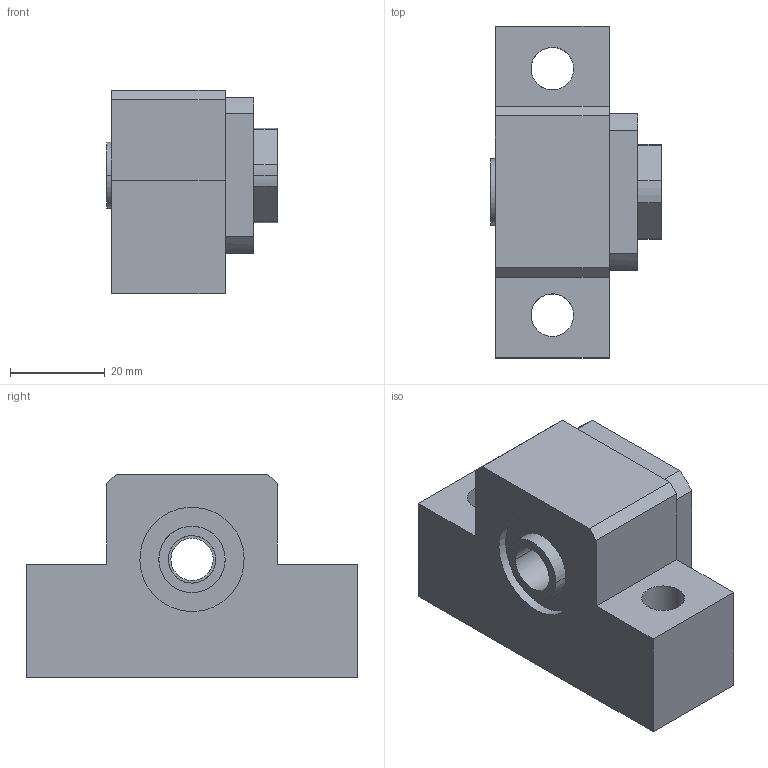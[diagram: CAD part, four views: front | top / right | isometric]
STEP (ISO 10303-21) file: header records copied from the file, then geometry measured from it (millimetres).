
FILE_DESCRIPTION(('CATIA V5 STEP Exchange'),'2;1');
FILE_NAME('D:\서포트 완성도면\EK\EK10.stp','2014-03-24T10:11:11+00:00',('none'),('none'),'CATIA Version 5 Release 18 GA (IN-10)','CATIA V5 STEP AP203','none');
FILE_SCHEMA(('CONFIG_CONTROL_DESIGN'));
Length unit declared in the file: millimetre
Products named in the file (1): EK10
Assembly tree (4 placements, depth 2):
  EK10
    #56
    #1682
    #1933
    #2184
Bounding box: 36 x 70 x 43 mm (x, y, z)
Volume: 57791.2 mm3; surface area: 15378.5 mm2
Topology: 4 solids, 4 shells, 65 faces, 158 edges, 106 vertices
Faces by surface type: cylinder 34, plane 31
Entity records: 2650 total; most frequent: CARTESIAN_POINT 1094, ORIENTED_EDGE 316, DIRECTION 241, EDGE_CURVE 158, VERTEX_POINT 106, VECTOR 90, LINE 90, AXIS2_PLACEMENT_3D 85
